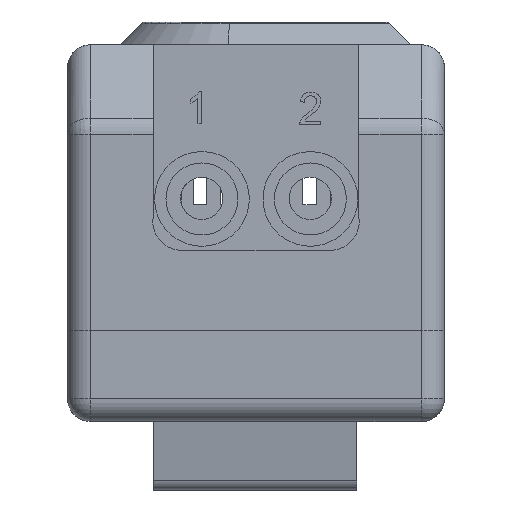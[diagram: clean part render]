
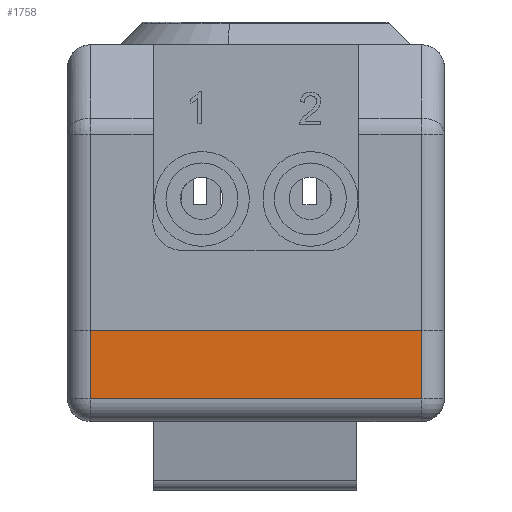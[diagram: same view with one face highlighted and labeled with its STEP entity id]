
A CAD part, front view. The second image highlights one B-rep face of the part: STEP entity #1758.
In plain terms, the highlighted planar face has unit normal (0, -1, 0).
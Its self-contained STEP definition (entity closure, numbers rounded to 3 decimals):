
#231 = CYLINDRICAL_SURFACE('',#232,2.);
#232 = AXIS2_PLACEMENT_3D('',#233,#234,#235);
#233 = CARTESIAN_POINT('',(-16.5,-28.,-6.));
#234 = DIRECTION('',(1.,0.,0.));
#235 = DIRECTION('',(0.,-1.,0.));
#477 = VERTEX_POINT('',#478);
#478 = CARTESIAN_POINT('',(-14.5,-30.,-6.));
#576 = VERTEX_POINT('',#577);
#577 = CARTESIAN_POINT('',(14.5,-30.,-6.));
#604 = EDGE_CURVE('',#477,#576,#605,.T.);
#605 = SURFACE_CURVE('',#606,(#610,#617),.PCURVE_S1.);
#606 = LINE('',#607,#608);
#607 = CARTESIAN_POINT('',(-16.5,-30.,-6.));
#608 = VECTOR('',#609,1.);
#609 = DIRECTION('',(1.,0.,0.));
#610 = PCURVE('',#231,#611);
#611 = DEFINITIONAL_REPRESENTATION('',(#612),#616);
#612 = LINE('',#613,#614);
#613 = CARTESIAN_POINT('',(0.,0.));
#614 = VECTOR('',#615,1.);
#615 = DIRECTION('',(0.,1.));
#616 = ( GEOMETRIC_REPRESENTATION_CONTEXT(2) 
PARAMETRIC_REPRESENTATION_CONTEXT() REPRESENTATION_CONTEXT('2D SPACE',''
  ) );
#617 = PCURVE('',#618,#623);
#618 = PLANE('',#619);
#619 = AXIS2_PLACEMENT_3D('',#620,#621,#622);
#620 = CARTESIAN_POINT('',(-16.5,-30.,0.));
#621 = DIRECTION('',(0.,-1.,0.));
#622 = DIRECTION('',(1.,0.,0.));
#623 = DEFINITIONAL_REPRESENTATION('',(#624),#628);
#624 = LINE('',#625,#626);
#625 = CARTESIAN_POINT('',(0.,-6.));
#626 = VECTOR('',#627,1.);
#627 = DIRECTION('',(1.,0.));
#628 = ( GEOMETRIC_REPRESENTATION_CONTEXT(2) 
PARAMETRIC_REPRESENTATION_CONTEXT() REPRESENTATION_CONTEXT('2D SPACE',''
  ) );
#1747 = CYLINDRICAL_SURFACE('',#1748,2.);
#1748 = AXIS2_PLACEMENT_3D('',#1749,#1750,#1751);
#1749 = CARTESIAN_POINT('',(-14.5,-28.,0.));
#1750 = DIRECTION('',(-0.,-0.,-1.));
#1751 = DIRECTION('',(0.,-1.,0.));
#1758 = ADVANCED_FACE('',(#1759),#618,.T.);
#1759 = FACE_BOUND('',#1760,.T.);
#1760 = EDGE_LOOP('',(#1761,#1791,#1812,#1813));
#1761 = ORIENTED_EDGE('',*,*,#1762,.F.);
#1762 = EDGE_CURVE('',#1763,#1765,#1767,.T.);
#1763 = VERTEX_POINT('',#1764);
#1764 = CARTESIAN_POINT('',(-14.5,-30.,0.));
#1765 = VERTEX_POINT('',#1766);
#1766 = CARTESIAN_POINT('',(14.5,-30.,0.));
#1767 = SURFACE_CURVE('',#1768,(#1772,#1779),.PCURVE_S1.);
#1768 = LINE('',#1769,#1770);
#1769 = CARTESIAN_POINT('',(-16.5,-30.,0.));
#1770 = VECTOR('',#1771,1.);
#1771 = DIRECTION('',(1.,0.,0.));
#1772 = PCURVE('',#618,#1773);
#1773 = DEFINITIONAL_REPRESENTATION('',(#1774),#1778);
#1774 = LINE('',#1775,#1776);
#1775 = CARTESIAN_POINT('',(0.,0.));
#1776 = VECTOR('',#1777,1.);
#1777 = DIRECTION('',(1.,0.));
#1778 = ( GEOMETRIC_REPRESENTATION_CONTEXT(2) 
PARAMETRIC_REPRESENTATION_CONTEXT() REPRESENTATION_CONTEXT('2D SPACE',''
  ) );
#1779 = PCURVE('',#1780,#1785);
#1780 = PLANE('',#1781);
#1781 = AXIS2_PLACEMENT_3D('',#1782,#1783,#1784);
#1782 = CARTESIAN_POINT('',(0.,0.,0.));
#1783 = DIRECTION('',(0.,0.,1.));
#1784 = DIRECTION('',(1.,0.,0.));
#1785 = DEFINITIONAL_REPRESENTATION('',(#1786),#1790);
#1786 = LINE('',#1787,#1788);
#1787 = CARTESIAN_POINT('',(-16.5,-30.));
#1788 = VECTOR('',#1789,1.);
#1789 = DIRECTION('',(1.,0.));
#1790 = ( GEOMETRIC_REPRESENTATION_CONTEXT(2) 
PARAMETRIC_REPRESENTATION_CONTEXT() REPRESENTATION_CONTEXT('2D SPACE',''
  ) );
#1791 = ORIENTED_EDGE('',*,*,#1792,.T.);
#1792 = EDGE_CURVE('',#1763,#477,#1793,.T.);
#1793 = SURFACE_CURVE('',#1794,(#1798,#1805),.PCURVE_S1.);
#1794 = LINE('',#1795,#1796);
#1795 = CARTESIAN_POINT('',(-14.5,-30.,0.));
#1796 = VECTOR('',#1797,1.);
#1797 = DIRECTION('',(-0.,-0.,-1.));
#1798 = PCURVE('',#618,#1799);
#1799 = DEFINITIONAL_REPRESENTATION('',(#1800),#1804);
#1800 = LINE('',#1801,#1802);
#1801 = CARTESIAN_POINT('',(2.,0.));
#1802 = VECTOR('',#1803,1.);
#1803 = DIRECTION('',(0.,-1.));
#1804 = ( GEOMETRIC_REPRESENTATION_CONTEXT(2) 
PARAMETRIC_REPRESENTATION_CONTEXT() REPRESENTATION_CONTEXT('2D SPACE',''
  ) );
#1805 = PCURVE('',#1747,#1806);
#1806 = DEFINITIONAL_REPRESENTATION('',(#1807),#1811);
#1807 = LINE('',#1808,#1809);
#1808 = CARTESIAN_POINT('',(0.,0.));
#1809 = VECTOR('',#1810,1.);
#1810 = DIRECTION('',(0.,1.));
#1811 = ( GEOMETRIC_REPRESENTATION_CONTEXT(2) 
PARAMETRIC_REPRESENTATION_CONTEXT() REPRESENTATION_CONTEXT('2D SPACE',''
  ) );
#1812 = ORIENTED_EDGE('',*,*,#604,.T.);
#1813 = ORIENTED_EDGE('',*,*,#1814,.F.);
#1814 = EDGE_CURVE('',#1765,#576,#1815,.T.);
#1815 = SURFACE_CURVE('',#1816,(#1820,#1827),.PCURVE_S1.);
#1816 = LINE('',#1817,#1818);
#1817 = CARTESIAN_POINT('',(14.5,-30.,0.));
#1818 = VECTOR('',#1819,1.);
#1819 = DIRECTION('',(-0.,-0.,-1.));
#1820 = PCURVE('',#618,#1821);
#1821 = DEFINITIONAL_REPRESENTATION('',(#1822),#1826);
#1822 = LINE('',#1823,#1824);
#1823 = CARTESIAN_POINT('',(31.,0.));
#1824 = VECTOR('',#1825,1.);
#1825 = DIRECTION('',(0.,-1.));
#1826 = ( GEOMETRIC_REPRESENTATION_CONTEXT(2) 
PARAMETRIC_REPRESENTATION_CONTEXT() REPRESENTATION_CONTEXT('2D SPACE',''
  ) );
#1827 = PCURVE('',#1828,#1833);
#1828 = CYLINDRICAL_SURFACE('',#1829,2.);
#1829 = AXIS2_PLACEMENT_3D('',#1830,#1831,#1832);
#1830 = CARTESIAN_POINT('',(14.5,-28.,0.));
#1831 = DIRECTION('',(-0.,-0.,-1.));
#1832 = DIRECTION('',(0.,-1.,0.));
#1833 = DEFINITIONAL_REPRESENTATION('',(#1834),#1838);
#1834 = LINE('',#1835,#1836);
#1835 = CARTESIAN_POINT('',(-0.,0.));
#1836 = VECTOR('',#1837,1.);
#1837 = DIRECTION('',(-0.,1.));
#1838 = ( GEOMETRIC_REPRESENTATION_CONTEXT(2) 
PARAMETRIC_REPRESENTATION_CONTEXT() REPRESENTATION_CONTEXT('2D SPACE',''
  ) );
